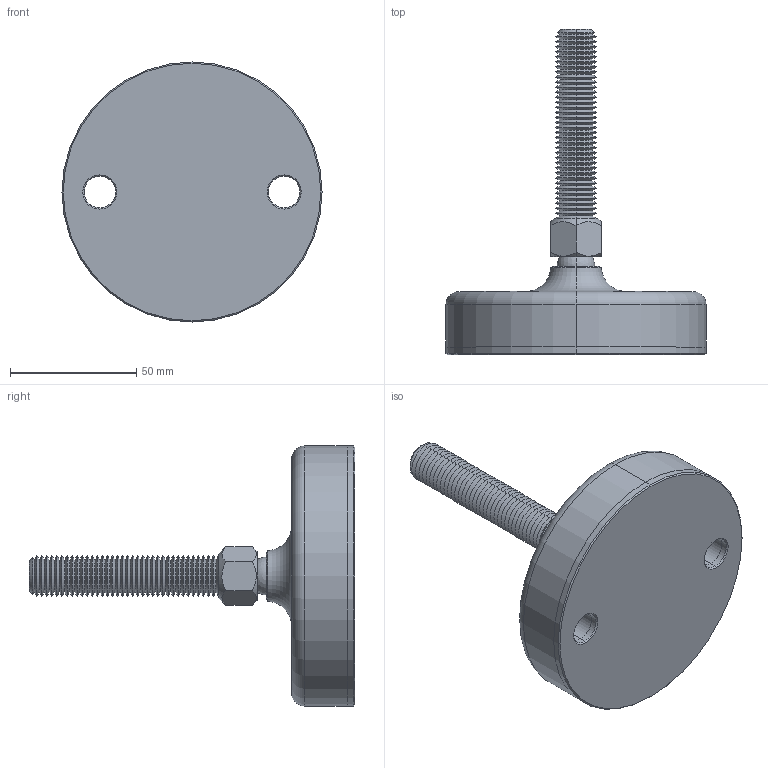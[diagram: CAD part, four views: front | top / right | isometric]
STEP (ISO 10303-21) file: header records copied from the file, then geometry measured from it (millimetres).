
FILE_DESCRIPTION (( 'STEP AP203' ), '1' );
FILE_NAME ('34724.W1608.step', '2019-11-28T22:13:26', ( '' ), ( '' ), 'SwSTEP 2.0', 'SolidWorks 2017', '' );
FILE_SCHEMA (( 'CONFIG_CONTROL_DESIGN' ));
Length unit declared in the file: millimetre
Products named in the file (4): Part2_34724.W1608; 34724.W1608; Part3_34724.W1608; Part1_34724.W1608
Assembly tree (3 placements, depth 2):
  34724.W1608
    Part1_34724.W1608
    Part2_34724.W1608
    Part3_34724.W1608
Bounding box: 103 x 129 x 103 mm (x, y, z)
Volume: 222961.9 mm3; surface area: 50736.4 mm2
Topology: 3 solids, 3 shells, 200 faces, 415 edges, 221 vertices
Faces by surface type: cone 166, plane 14, cylinder 12, sphere 4, torus 4
Entity records: 5666 total; most frequent: DIRECTION 1016, CARTESIAN_POINT 980, ORIENTED_EDGE 812, AXIS2_PLACEMENT_3D 416, EDGE_CURVE 406, VERTEX_POINT 216, EDGE_LOOP 212, CIRCLE 210
